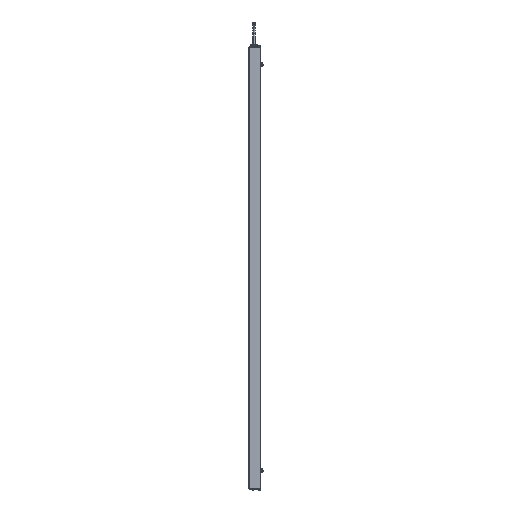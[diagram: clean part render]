
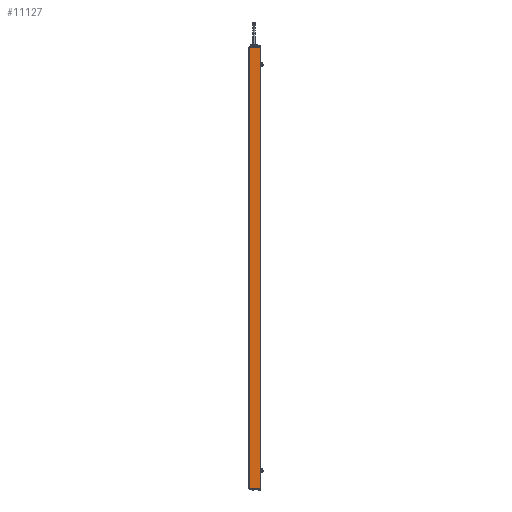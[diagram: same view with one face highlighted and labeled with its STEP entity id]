
A CAD part, left-side view. The second image highlights one B-rep face of the part: STEP entity #11127.
In plain terms, the highlighted planar face has unit normal (-1, 0, 0).
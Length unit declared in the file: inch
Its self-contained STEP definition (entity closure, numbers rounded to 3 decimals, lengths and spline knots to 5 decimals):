
#193 = DIRECTION ( 'NONE',  ( 0., 0., -1. ) ) ;
#427 = EDGE_CURVE ( 'NONE', #12711, #4368, #2190, .T. ) ;
#455 = VECTOR ( 'NONE', #6730, 39.37008 ) ;
#1355 = ORIENTED_EDGE ( 'NONE', *, *, #427, .T. ) ;
#2058 = CARTESIAN_POINT ( 'NONE',  ( -0.665, 0., 20.6475 ) ) ;
#2190 = LINE ( 'NONE', #2980, #3989 ) ;
#2205 = DIRECTION ( 'NONE',  ( 0., -1., 0. ) ) ;
#2303 = CARTESIAN_POINT ( 'NONE',  ( -0.665, 1.105, 20.6475 ) ) ;
#2472 = CARTESIAN_POINT ( 'NONE',  ( -0.665, 0.015, -20.6475 ) ) ;
#2980 = CARTESIAN_POINT ( 'NONE',  ( -0.665, 0.015, 20.6475 ) ) ;
#3989 = VECTOR ( 'NONE', #13083, 39.37008 ) ;
#4368 = VERTEX_POINT ( 'NONE', #16844 ) ;
#4425 = DIRECTION ( 'NONE',  ( 1., 0., 0. ) ) ;
#6414 = PLANE ( 'NONE',  #9204 ) ;
#6730 = DIRECTION ( 'NONE',  ( 0., 0., -1. ) ) ;
#7102 = EDGE_CURVE ( 'NONE', #8460, #12711, #14348, .T. ) ;
#7793 = ORIENTED_EDGE ( 'NONE', *, *, #8191, .T. ) ;
#8186 = CARTESIAN_POINT ( 'NONE',  ( -0.665, 0., -20.6475 ) ) ;
#8191 = EDGE_CURVE ( 'NONE', #11961, #8460, #9287, .T. ) ;
#8349 = FACE_OUTER_BOUND ( 'NONE', #17338, .T. ) ;
#8460 = VERTEX_POINT ( 'NONE', #13079 ) ;
#9204 = AXIS2_PLACEMENT_3D ( 'NONE', #2058, #4425, #193 ) ;
#9287 = LINE ( 'NONE', #2303, #455 ) ;
#9340 = VECTOR ( 'NONE', #2205, 39.37008 ) ;
#11127 = ADVANCED_FACE ( 'NONE', ( #8349 ), #6414, .F. ) ;
#11961 = VERTEX_POINT ( 'NONE', #15393 ) ;
#12158 = DIRECTION ( 'NONE',  ( 0., -1., 0. ) ) ;
#12291 = CARTESIAN_POINT ( 'NONE',  ( -0.665, 0., 20.6475 ) ) ;
#12352 = LINE ( 'NONE', #12291, #17335 ) ;
#12482 = ORIENTED_EDGE ( 'NONE', *, *, #14573, .F. ) ;
#12711 = VERTEX_POINT ( 'NONE', #2472 ) ;
#13079 = CARTESIAN_POINT ( 'NONE',  ( -0.665, 1.105, -20.6475 ) ) ;
#13083 = DIRECTION ( 'NONE',  ( 0., 0., 1. ) ) ;
#14348 = LINE ( 'NONE', #8186, #9340 ) ;
#14573 = EDGE_CURVE ( 'NONE', #11961, #4368, #12352, .T. ) ;
#15393 = CARTESIAN_POINT ( 'NONE',  ( -0.665, 1.105, 20.6475 ) ) ;
#16844 = CARTESIAN_POINT ( 'NONE',  ( -0.665, 0.015, 20.6475 ) ) ;
#17327 = ORIENTED_EDGE ( 'NONE', *, *, #7102, .T. ) ;
#17335 = VECTOR ( 'NONE', #12158, 39.37008 ) ;
#17338 = EDGE_LOOP ( 'NONE', ( #12482, #7793, #17327, #1355 ) ) ;
